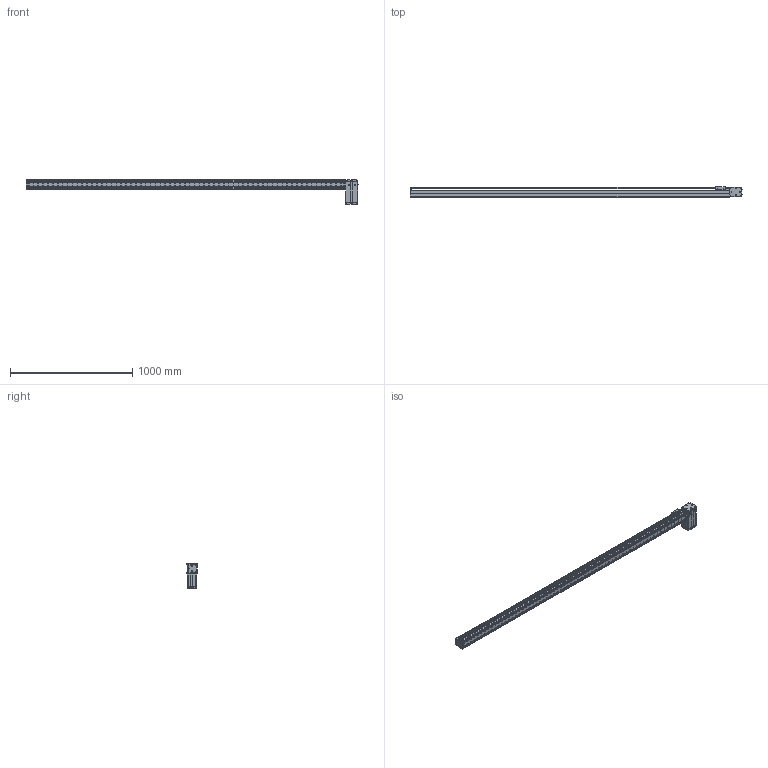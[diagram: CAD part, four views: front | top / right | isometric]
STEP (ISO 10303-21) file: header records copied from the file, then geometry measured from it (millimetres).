
FILE_DESCRIPTION((''),'2;1');
FILE_NAME('BE10_-BL-S_N-Q5_IGS_PRT','2017-06-18T',(' '),(''),'PRO/ENGINEER BY PARAMETRIC TECHNOLOGY CORPORATION, 2015030','PRO/ENGINEER BY PARAMETRIC TECHNOLOGY CORPORATION, 2015030','');
FILE_SCHEMA(('CONFIG_CONTROL_DESIGN'));
Products named in the file (1): BE10_-BL-S_N-Q5_IGS_PRT
Bounding box: 2720.8 x 85 x 200.22 mm (x, y, z)
Volume: 3428269.5 mm3; surface area: 2420054.1 mm2
Topology: 5 solids, 209 shells, 2451 faces, 6749 edges, 4518 vertices
Faces by surface type: cylinder 1207, plane 1085, cone 103, sphere 28, torus 25, bspline 3
Entity records: 80730 total; most frequent: CARTESIAN_POINT 16582, DIRECTION 13697, ORIENTED_EDGE 12606, EDGE_CURVE 6693, AXIS2_PLACEMENT_3D 5071, VERTEX_POINT 4517, VECTOR 3555, LINE 3555
